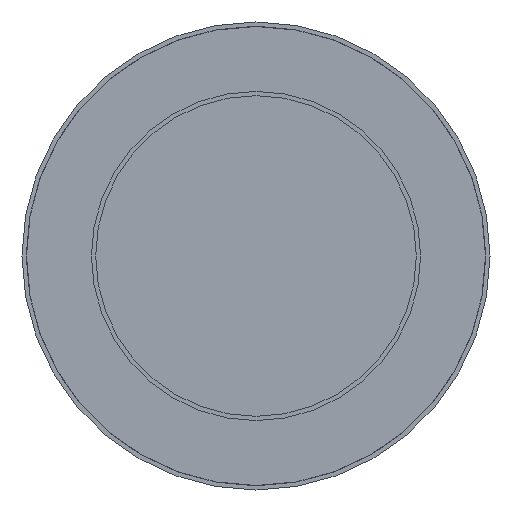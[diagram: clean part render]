
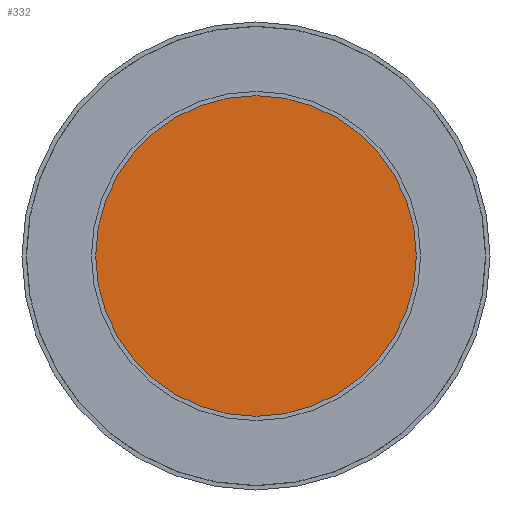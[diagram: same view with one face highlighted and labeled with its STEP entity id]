
A CAD part, front view. The second image highlights one B-rep face of the part: STEP entity #332.
In plain terms, the highlighted planar face has unit normal (0, -1, 0).
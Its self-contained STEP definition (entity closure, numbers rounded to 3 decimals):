
#131=CARTESIAN_POINT('',(0.,0.,0.));
#132=DIRECTION('',(0.,1.,0.));
#133=DIRECTION('',(-1.,0.,0.));
#134=AXIS2_PLACEMENT_3D('',#131,#132,#133);
#136=CARTESIAN_POINT('',(0.,0.,0.));
#137=DIRECTION('',(0.,-1.,0.));
#138=DIRECTION('',(-1.,0.,0.));
#139=AXIS2_PLACEMENT_3D('',#136,#137,#138);
#278=CARTESIAN_POINT('',(-75.,0.,0.));
#280=VERTEX_POINT('',#278);
#290=CARTESIAN_POINT('',(75.,0.,0.));
#292=VERTEX_POINT('',#290);
#323=CARTESIAN_POINT('',(0.,0.,0.));
#324=DIRECTION('',(0.,-1.,0.));
#325=DIRECTION('',(-1.,0.,0.));
#326=AXIS2_PLACEMENT_3D('',#323,#324,#325);
#327=PLANE('',#326);
#328=ORIENTED_EDGE('',*,*,#304,.T.);
#329=ORIENTED_EDGE('',*,*,#315,.F.);
#330=EDGE_LOOP('',(#328,#329));
#331=FACE_OUTER_BOUND('',#330,.F.);
#135=CIRCLE('',#134,75.);
#140=CIRCLE('',#139,75.);
#304=EDGE_CURVE('',#280,#292,#135,.T.);
#315=EDGE_CURVE('',#280,#292,#140,.T.);
#332=ADVANCED_FACE('',(#331),#327,.T.);
